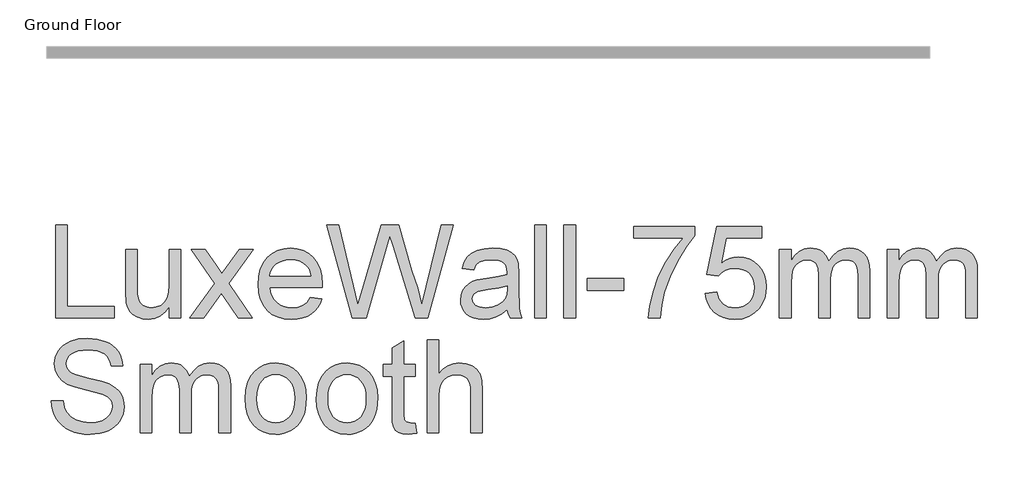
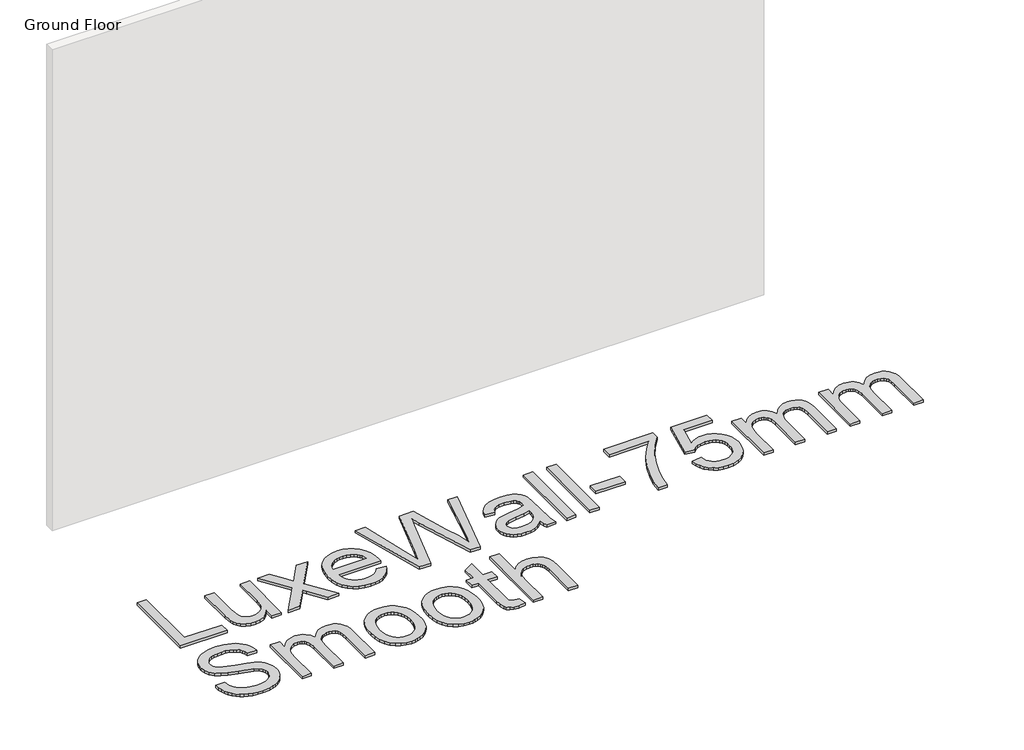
# One storey, part 2 of 3: 1 proxy.
"""IFC4 building model written with IfcOpenShell, lengths in millimetres."""

from ifc_helpers import new_model, si_unit, origin, origin_with_axes, place, context, project, spatial, polyline, outline, extrude, element, save

model = new_model("IFC4")

# Units and contexts
model_context = context("Model", 3, world=origin())
ifc_project = project(units=[si_unit("LENGTHUNIT", "METRE", prefix="MILLI")], contexts=[model_context])

# Site, building, storey
site = spatial("IfcSite", under=ifc_project)
building = spatial("IfcBuilding", under=site)
storey = spatial("IfcBuildingStorey", under=building, Name="Ground Floor", Elevation=0.0)

# Proxy
placement = place(None, origin())
element("IfcBuildingElementProxy", 1, Name="600mm Arial", ObjectType="600mm Arial", at=placement, inside=storey, context=model_context, shape_type="SweptSolid", body=[
    extrude(outline(polyline([(58.116488, -785.58737), (58.116488, -194.8181392), (131.9626419, -194.8181392), (131.9626419, -711.7412162), (427.3472572, -711.7412162), (427.3472572, -785.58737), (58.116488, -785.58737)])), origin_with_axes(), (0.0, 0.0, 1.0), 20.0),
    extrude(outline(polyline([(778.116488, -785.58737), (778.116488, -711.0200623), (751.397738, -747.681721), (720.2799496, -773.86862), (684.7631226, -789.5807594), (644.8472572, -794.8181392), (608.8797092, -791.1402546), (575.4001419, -780.1066008), (547.3111996, -763.5200623), (527.5155265, -743.1835239), (514.1922092, -718.4840046), (505.5203342, -688.8085239), (501.1934111, -620.1546777), (501.1934111, -351.7412162), (575.0395649, -351.7412162), (575.0395649, -585.3950623), (576.1573534, -632.1258315), (579.5107188, -660.6835239), (590.2739399, -685.7977065), (608.7174496, -704.8902546), (633.6152861, -716.9515527), (663.741488, -720.9719854), (695.5984592, -716.8614085), (725.4001419, -704.5296777), (749.9734592, -685.1126104), (766.1453342, -659.7460239), (775.1236996, -625.0044373), (778.116488, -577.46237), (778.116488, -351.7412162), (851.9626419, -351.7412162), (851.9626419, -785.58737), (778.116488, -785.58737)])), origin_with_axes(), (0.0, 0.0, 1.0), 20.0),
    extrude(outline(polyline([(907.3472572, -785.58737), (1065.1357188, -567.5104469), (916.5780265, -351.7412162), (1005.4241803, -351.7412162), (1077.1068726, -455.58737), (1110.5684111, -504.6258315), (1139.5587957, -464.5296777), (1221.1934111, -351.7412162), (1310.0395649, -351.7412162), (1153.9818726, -567.5104469), (1304.2703342, -785.58737), (1215.4241803, -785.58737), (1124.991488, -654.4816008), (1108.4049496, -630.5392931), (996.1934111, -785.58737), (907.3472572, -785.58737)])), origin_with_axes(), (0.0, 0.0, 1.0), 20.0),
    extrude(outline(polyline([(1672.6357188, -656.3566008), (1745.0395649, -665.58737), (1733.9383029, -694.586769), (1718.9518246, -720.1426585), (1700.0801298, -742.2550383), (1677.3232188, -760.9239085), (1650.9154664, -775.7526344), (1621.0912476, -786.3445815), (1587.8505625, -792.6997498), (1551.1934111, -794.8181392), (1505.3730986, -791.1627907), (1464.5467765, -780.196745), (1428.7144447, -761.9200022), (1397.8761034, -736.3325623), (1373.0774255, -704.1465647), (1355.3640842, -666.0741489), (1344.7360794, -622.1153147), (1341.1934111, -572.2700623), (1344.7721371, -520.7346056), (1355.5083149, -475.3109277), (1373.4019447, -435.9990287), (1398.4530265, -402.7989085), (1429.210238, -376.4227065), (1464.2222572, -357.5825623), (1503.4890842, -346.2784758), (1547.0107188, -342.5104469), (1589.1306106, -346.2694614), (1627.2210553, -357.5465046), (1661.2820529, -376.3415767), (1691.3136034, -402.6546777), (1715.828327, -435.7826825), (1733.3388438, -475.0224662), (1743.8451539, -520.3740287), (1747.3472572, -571.83737), (1746.9145649, -591.7412162), (1415.0395649, -591.7412162), (1419.3169087, -621.2093652), (1427.8220169, -647.0176585), (1440.5548895, -669.166096), (1457.5155265, -687.6546777), (1477.7664279, -702.2309998), (1500.3700938, -712.6426585), (1525.3265241, -718.8896537), (1552.6357188, -720.9719854), (1591.9386034, -717.1138123), (1625.0395649, -705.5392931), (1651.9386034, -685.5272739), (1672.6357188, -656.3566008)]), holes=[polyline([(1415.0395649, -517.8950623), (1673.5011034, -517.8950623), (1663.5131226, -478.8806392), (1654.9223774, -463.5380912), (1643.9337957, -450.9719854), (1623.7955746, -435.8277546), (1600.8809111, -425.0104469), (1575.1898053, -418.5200623), (1546.7222572, -416.3566008), (1520.7562116, -418.0828628), (1496.944613, -423.2616489), (1475.2874616, -431.892959), (1455.7847572, -443.9767931), (1439.4190722, -458.954257), (1427.1729784, -476.2664565), (1419.046476, -495.9133916), (1415.0395649, -517.8950623)])]), origin_with_axes(), (0.0, 0.0, 1.0), 20.0),
    extrude(outline(polyline([(1936.1453342, -785.58737), (1775.0395649, -194.8181392), (1851.1934111, -194.8181392), (1944.6549496, -583.08737), (1973.5011034, -702.9431392), (2004.366488, -596.9335239), (2121.4818726, -194.8181392), (2231.241488, -194.8181392), (2316.3376419, -486.3085239), (2352.7919688, -594.4816008), (2379.6549496, -702.9431392), (2407.6357188, -586.5489085), (2501.9626419, -194.8181392), (2578.116488, -194.8181392), (2416.866488, -785.58737), (2337.9722572, -785.58737), (2196.3376419, -329.8181392), (2176.5780265, -266.21237), (2154.366488, -342.7989085), (2025.2799496, -785.58737), (1936.1453342, -785.58737)])), origin_with_axes(), (0.0, 0.0, 1.0), 20.0),
    extrude(outline(polyline([(2919.6549496, -730.2027546), (2884.3724976, -760.4551585), (2848.0443726, -780.2508315), (2809.8412476, -791.1763123), (2768.9337957, -794.8181392), (2736.0536875, -792.6276344), (2707.2210553, -786.05612), (2682.4358991, -775.103596), (2661.6982188, -759.7700623), (2645.3235193, -741.0290767), (2633.6273053, -719.8541969), (2626.609577, -696.2454229), (2624.2703342, -670.2027546), (2627.803988, -639.5897739), (2638.4049496, -611.7892931), (2654.757113, -587.9912162), (2675.5443726, -569.3854469), (2699.9734592, -555.3229469), (2727.2511034, -545.1546777), (2791.1453342, -534.0489085), (2866.6501419, -522.3662162), (2919.2222572, -508.6642931), (2919.6549496, -492.2219854), (2914.5708149, -459.2652546), (2908.2156467, -447.0597258), (2899.3184111, -437.7027546), (2883.9398053, -428.3638123), (2865.2078342, -421.6931392), (2817.6837957, -416.3566008), (2773.6934111, -419.9082835), (2742.9722572, -430.5633315), (2722.022738, -450.2688604), (2707.3472572, -480.9719854), (2633.5011034, -471.7412162), (2646.319613, -431.3566008), (2665.4482188, -399.6258315), (2692.6717765, -375.3590046), (2729.7751419, -357.3662162), (2775.1537476, -346.2243892), (2827.2030265, -342.5104469), (2877.1249015, -345.7916969), (2916.6982188, -355.6354469), (2946.5359592, -370.4371296), (2967.2511034, -388.5921777), (2980.9890842, -411.0380912), (2989.8953342, -438.71237), (2993.5011034, -503.3277546), (2993.5011034, -595.2027546), (2997.2511034, -723.4960239), (3002.803988, -755.2087642), (3011.9626419, -785.58737), (2938.116488, -785.58737), (2926.2895649, -759.9142931), (2919.6549496, -730.2027546)]), holes=[polyline([(2919.6549496, -582.5104469), (2870.0395649, -594.80612), (2800.5203342, -605.1546777), (2736.9866803, -617.1258315), (2720.4542284, -625.3109277), (2708.2126419, -636.5969854), (2700.6405265, -650.11862), (2698.116488, -665.0104469), (2703.6152861, -686.9695815), (2720.1116803, -704.96237), (2747.2450938, -716.9695815), (2784.6549496, -720.9719854), (2824.3184111, -716.5549181), (2859.366488, -703.3037162), (2887.7799496, -683.7784758), (2907.5395649, -660.5392931), (2916.3015842, -636.5969854), (2919.2222572, -603.4239085), (2919.6549496, -582.5104469)])]), origin_with_axes(), (0.0, 0.0, 1.0), 20.0),
    extrude(outline(polyline([(3095.0395649, -785.58737), (3095.0395649, -194.8181392), (3168.8857188, -194.8181392), (3168.8857188, -785.58737), (3095.0395649, -785.58737)])), origin_with_axes(), (0.0, 0.0, 1.0), 20.0),
    extrude(outline(polyline([(3279.6549496, -785.58737), (3279.6549496, -194.8181392), (3353.5011034, -194.8181392), (3353.5011034, -785.58737), (3279.6549496, -785.58737)])), origin_with_axes(), (0.0, 0.0, 1.0), 20.0),
    extrude(outline(polyline([(3427.3472572, -610.2027546), (3427.3472572, -536.3566008), (3658.116488, -536.3566008), (3658.116488, -610.2027546), (3427.3472572, -610.2027546)])), origin_with_axes(), (0.0, 0.0, 1.0), 20.0),
    extrude(outline(polyline([(3722.7318726, -277.8950623), (3722.7318726, -204.0489085), (4110.4241803, -204.0489085), (4110.4241803, -263.7604469), (4055.1657669, -333.6943412), (4000.4482188, -422.6306392), (3952.1849976, -522.4563604), (3916.2895649, -625.0585239), (3898.6934111, -701.8253508), (3888.8857188, -785.58737), (3815.0395649, -785.58737), (3823.0263438, -709.4695815), (3844.3905265, -619.0008315), (3878.5551899, -523.1053989), (3924.9434111, -430.7075623), (3979.1020649, -347.1799181), (4036.5780265, -277.8950623), (3722.7318726, -277.8950623)])), origin_with_axes(), (0.0, 0.0, 1.0), 20.0),
    extrude(outline(polyline([(4175.0395649, -628.6642931), (4248.8857188, -619.4335239), (4254.4025457, -643.173007), (4262.4434111, -663.7664565), (4273.0083149, -681.2138724), (4286.0972572, -695.5152546), (4301.6831947, -706.6525743), (4319.7390842, -714.6078027), (4340.2649255, -719.3809397), (4363.2607188, -720.9719854), (4391.3857188, -718.7589445), (4416.1934111, -712.1198219), (4437.6837957, -701.0546176), (4455.8568726, -685.5633315), (4470.3069928, -666.4121897), (4480.6285072, -644.3674181), (4486.8214159, -619.4290166), (4488.8857188, -591.5969854), (4486.952125, -565.2928989), (4481.1513438, -541.9094854), (4471.483375, -521.446745), (4457.9482188, -503.9046777), (4440.5008029, -489.8331633), (4419.0960553, -479.7820815), (4393.733976, -473.7514325), (4364.4145649, -471.7412162), (4328.5912476, -474.9503508), (4299.5828342, -484.5777546), (4276.4157669, -499.3253508), (4258.116488, -517.8950623), (4184.2703342, -508.6642931), (4248.8857188, -204.0489085), (4535.0395649, -204.0489085), (4535.0395649, -277.8950623), (4308.5972572, -277.8950623), (4277.0107188, -440.58737), (4303.0714159, -421.9094854), (4329.7631226, -408.5681392), (4357.085839, -400.5633315), (4385.0395649, -397.8950623), (4421.0026058, -401.2033556), (4454.0359592, -411.1282354), (4484.139625, -427.6697017), (4511.3136034, -450.8277546), (4533.8090962, -479.1871296), (4549.8773053, -511.3325623), (4559.5182308, -547.2640527), (4562.7318726, -586.9816008), (4559.8382428, -625.2388123), (4551.1573534, -660.8277546), (4536.6892044, -693.7484277), (4516.4337957, -724.0008315), (4485.7486996, -754.9834037), (4449.9434111, -777.1138123), (4409.0179303, -790.3920575), (4362.9722572, -794.8181392), (4324.8637837, -791.9740888), (4290.4422092, -783.4419373), (4259.7075337, -769.2216849), (4232.6597572, -749.3133315), (4210.15525, -724.7084638), (4193.0503822, -696.3986681), (4181.3451539, -664.3839445), (4175.0395649, -628.6642931)])), origin_with_axes(), (0.0, 0.0, 1.0), 20.0),
    extrude(outline(polyline([(4645.8087957, -785.58737), (4645.8087957, -351.7412162), (4719.6549496, -351.7412162), (4719.6549496, -423.1354469), (4741.866488, -390.3409758), (4770.4241803, -364.64987), (4804.3544688, -348.0453027), (4842.6837957, -342.5104469), (4883.7535072, -348.1534758), (4901.2324736, -355.2072618), (4916.6741803, -365.0825623), (4941.2655265, -392.1799181), (4957.3472572, -428.3277546), (4984.2643246, -390.7826825), (5014.9674496, -363.9647739), (5049.4566322, -347.8740287), (5087.7318726, -342.5104469), (5117.2946731, -344.7415166), (5143.2426899, -351.4347258), (5165.5759231, -362.5900743), (5184.2943726, -378.2075623), (5199.0915481, -398.4674782), (5209.6609592, -423.5501104), (5216.0026058, -453.455459), (5218.116488, -488.1835239), (5218.116488, -785.58737), (5144.2703342, -785.58737), (5144.2703342, -519.9142931), (5142.5575938, -483.0813604), (5137.4193726, -458.2556392), (5127.7919688, -441.2544373), (5112.6116803, -427.8950623), (5093.0864399, -419.2412162), (5070.4241803, -416.3566008), (5049.4971972, -418.2045575), (5030.4181707, -423.7484277), (5013.187101, -432.9882114), (4997.803988, -445.9239085), (4985.1522452, -462.9341248), (4976.1152861, -484.3974662), (4970.6931106, -510.3139325), (4968.8857188, -540.6835239), (4968.8857188, -785.58737), (4895.0395649, -785.58737), (4895.0395649, -511.6931392), (4890.7667284, -469.9383315), (4877.9482188, -440.1546777), (4868.0368606, -429.743019), (4855.3941322, -422.30612), (4840.0200337, -417.8439806), (4821.9145649, -416.3566008), (4793.4650457, -420.3229469), (4767.2511034, -432.2219854), (4745.616488, -451.7652546), (4730.9049496, -478.6642931), (4722.4674496, -515.9840046), (4719.6549496, -566.7892931), (4719.6549496, -785.58737), (4645.8087957, -785.58737)])), origin_with_axes(), (0.0, 0.0, 1.0), 20.0),
    extrude(outline(polyline([(5328.8857188, -785.58737), (5328.8857188, -351.7412162), (5402.7318726, -351.7412162), (5402.7318726, -423.1354469), (5424.9434111, -390.3409758), (5453.5011034, -364.64987), (5487.4313919, -348.0453027), (5525.7607188, -342.5104469), (5566.8304303, -348.1534758), (5584.3093967, -355.2072618), (5599.7511034, -365.0825623), (5624.3424496, -392.1799181), (5640.4241803, -428.3277546), (5667.3412476, -390.7826825), (5698.0443726, -363.9647739), (5732.5335553, -347.8740287), (5770.8087957, -342.5104469), (5800.3715962, -344.7415166), (5826.319613, -351.4347258), (5848.6528462, -362.5900743), (5867.3712957, -378.2075623), (5882.1684712, -398.4674782), (5892.7378822, -423.5501104), (5899.0795289, -453.455459), (5901.1934111, -488.1835239), (5901.1934111, -785.58737), (5827.3472572, -785.58737), (5827.3472572, -519.9142931), (5825.6345169, -483.0813604), (5820.4962957, -458.2556392), (5810.8688919, -441.2544373), (5795.6886034, -427.8950623), (5776.163363, -419.2412162), (5753.5011034, -416.3566008), (5732.5741202, -418.2045575), (5713.4950938, -423.7484277), (5696.2640241, -432.9882114), (5680.8809111, -445.9239085), (5668.2291683, -462.9341248), (5659.1922092, -484.3974662), (5653.7700337, -510.3139325), (5651.9626419, -540.6835239), (5651.9626419, -785.58737), (5578.116488, -785.58737), (5578.116488, -511.6931392), (5573.8436515, -469.9383315), (5561.0251419, -440.1546777), (5551.1137837, -429.743019), (5538.4710553, -422.30612), (5523.0969568, -417.8439806), (5504.991488, -416.3566008), (5476.5419688, -420.3229469), (5450.3280265, -432.2219854), (5428.6934111, -451.7652546), (5413.9818726, -478.6642931), (5405.5443726, -515.9840046), (5402.7318726, -566.7892931), (5402.7318726, -785.58737), (5328.8857188, -785.58737)])), origin_with_axes(), (0.0, 0.0, 1.0), 20.0),
    extrude(outline(polyline([(30.4241803, -1311.7412162), (104.2703342, -1311.7412162), (112.7438919, -1352.7207835), (128.0684111, -1385.6594854), (151.9746611, -1411.8013123), (186.1934111, -1432.3902546), (228.0203342, -1445.7496296), (274.7511034, -1450.2027546), (315.8929303, -1446.8313604), (351.9145649, -1436.7171777), (381.1032669, -1420.7075623), (401.7462957, -1399.64987), (414.0239399, -1375.4731873), (418.116488, -1350.1066008), (415.0515842, -1325.3890527), (405.8568726, -1304.02487), (387.178988, -1285.7977065), (355.6645649, -1270.4912162), (248.1405265, -1242.2941008), (177.5575938, -1223.634245), (132.3953342, -1205.8758315), (95.6345169, -1181.0320815), (69.5828342, -1150.9239085), (54.0599976, -1116.2003508), (48.8857188, -1077.5104469), (50.4857789, -1055.5197618), (55.2859592, -1034.259245), (63.2862597, -1013.7288965), (74.4866803, -993.9287162), (88.7610193, -975.665495), (105.9830746, -959.7460239), (126.1528462, -946.1703027), (149.2703342, -934.9383315), (201.2294688, -919.8481873), (258.741488, -914.8181392), (321.0491803, -920.0825623), (375.5684111, -935.8758315), (399.4205746, -947.6396537), (420.3520649, -961.8734277), (438.3628822, -978.5771537), (453.4530265, -997.7508315), (465.5053101, -1018.8355671), (474.4025457, -1041.2724662), (480.1447332, -1065.0615287), (482.7318726, -1090.2027546), (408.8857188, -1090.2027546), (403.9458149, -1066.6390527), (395.3280265, -1046.1402546), (383.0323534, -1028.7063604), (367.0587957, -1014.33737), (347.1098774, -1003.1053989), (322.8881226, -995.0825623), (294.3935313, -990.2688604), (261.6261034, -988.6642931), (227.8130024, -990.2508315), (198.9217765, -995.0104469), (174.9524255, -1002.9431392), (155.9049496, -1014.0489085), (141.3917284, -1027.399269), (131.0251419, -1042.0657354), (124.8051899, -1058.0483075), (122.7318726, -1075.3469854), (128.6092765, -1103.7243892), (146.241488, -1126.5489085), (162.4313919, -1136.6991489), (187.9241803, -1146.9575623), (266.8184111, -1167.7989085), (348.2366803, -1187.5945815), (397.491488, -1204.8662162), (439.5888438, -1231.6570815), (455.8643847, -1247.4052787), (468.9578342, -1264.7219854), (479.0224375, -1283.5170575), (486.2114399, -1303.7003508), (491.9626419, -1348.2316008), (490.3084952, -1371.3310599), (485.3460553, -1393.7544373), (477.0753222, -1415.501733), (465.4962957, -1436.5729469), (450.8118005, -1456.1522739), (433.2246611, -1473.4239085), (412.7348774, -1488.3878508), (389.3424496, -1501.0441008), (363.7279664, -1511.1087041), (336.5720169, -1518.2977065), (277.6357188, -1524.0489085), (239.8607789, -1522.4984277), (205.2859592, -1517.8469854), (173.9112597, -1510.0945815), (145.7366803, -1499.2412162), (120.5909472, -1485.2688604), (98.3027861, -1468.1594854), (78.8721972, -1447.9130912), (62.2991803, -1424.5296777), (48.9488197, -1398.7664565), (39.1861996, -1371.3806392), (33.0113197, -1342.3722258), (30.4241803, -1311.7412162)])), origin_with_axes(), (0.0, 0.0, 1.0), 20.0),
    extrude(outline(polyline([(593.5011034, -1514.8181392), (593.5011034, -1080.9719854), (667.3472572, -1080.9719854), (667.3472572, -1152.3662162), (689.5587957, -1119.571745), (718.116488, -1093.8806392), (752.0467765, -1077.2760719), (790.3761034, -1071.7412162), (831.4458149, -1077.384245), (848.9247813, -1084.4380311), (864.366488, -1094.3133315), (888.9578342, -1121.4106873), (905.0395649, -1157.5585239), (931.9566322, -1120.0134517), (962.6597572, -1093.1955431), (997.1489399, -1077.1047979), (1035.4241803, -1071.7412162), (1064.9869808, -1073.9722859), (1090.9349976, -1080.665495), (1113.2682308, -1091.8208436), (1131.9866803, -1107.4383315), (1146.7838558, -1127.6982474), (1157.3532669, -1152.7808796), (1163.6949135, -1182.6862282), (1165.8087957, -1217.4142931), (1165.8087957, -1514.8181392), (1091.9626419, -1514.8181392), (1091.9626419, -1249.1450623), (1090.2499015, -1212.3121296), (1085.1116803, -1187.4864085), (1075.4842765, -1170.4852065), (1060.303988, -1157.1258315), (1040.7787476, -1148.4719854), (1018.116488, -1145.58737), (997.1895048, -1147.4353267), (978.1104784, -1152.9791969), (960.8794087, -1162.2189806), (945.4962957, -1175.1546777), (932.8445529, -1192.164894), (923.8075938, -1213.6282354), (918.3854183, -1239.5447017), (916.5780265, -1269.9142931), (916.5780265, -1514.8181392), (842.7318726, -1514.8181392), (842.7318726, -1240.9239085), (838.4590361, -1199.1691008), (825.6405265, -1169.3854469), (815.7291683, -1158.9737883), (803.0864399, -1151.5368892), (787.7123414, -1147.0747498), (769.6068726, -1145.58737), (741.1573534, -1149.5537162), (714.9434111, -1161.4527546), (693.3087957, -1180.9960239), (678.5972572, -1207.8950623), (670.1597572, -1245.2147739), (667.3472572, -1296.0200623), (667.3472572, -1514.8181392), (593.5011034, -1514.8181392)])), origin_with_axes(), (0.0, 0.0, 1.0), 20.0),
    extrude(outline(polyline([(1258.116488, -1297.8950623), (1262.1098774, -1241.7081633), (1274.0900457, -1193.2916969), (1294.0569928, -1152.6456633), (1322.0107188, -1119.7700623), (1350.1537476, -1098.7574421), (1381.2174496, -1083.7484277), (1415.2018246, -1074.743019), (1452.1068726, -1071.7412162), (1492.8475577, -1075.3965647), (1529.6849976, -1086.3626104), (1562.6191923, -1104.6393532), (1591.6501419, -1130.2267931), (1615.3445529, -1162.2595455), (1632.2691322, -1199.8722258), (1642.4238798, -1243.064834), (1645.8087957, -1291.83737), (1644.3124015, -1331.3656152), (1639.8232188, -1366.4407354), (1632.3412476, -1397.0627306), (1621.866488, -1423.2316008), (1608.5296491, -1445.8352666), (1592.4614399, -1465.7616489), (1573.6618606, -1483.0107474), (1552.1309111, -1497.5825623), (1528.7069327, -1509.1615888), (1504.2282669, -1517.4323219), (1478.6949135, -1522.3947618), (1452.1068726, -1524.0489085), (1410.7712356, -1520.4070815), (1373.5912476, -1509.4816008), (1340.5669087, -1491.2724662), (1311.6982188, -1465.7796777), (1288.2562116, -1433.4359277), (1271.5119207, -1394.6739085), (1261.4653462, -1349.49362), (1258.116488, -1297.8950623)]), holes=[polyline([(1331.9626419, -1297.7508315), (1334.0990601, -1333.5696416), (1340.5083149, -1364.5837642), (1351.1904063, -1390.7931993), (1366.1453342, -1412.1979469), (1384.3364399, -1428.8250503), (1404.7270649, -1440.7015527), (1427.3172092, -1447.8274541), (1452.1068726, -1450.2027546), (1476.7703342, -1447.8139325), (1499.2703342, -1440.6474662), (1519.6068726, -1428.7033556), (1537.7799496, -1411.9816008), (1552.7348774, -1390.3650142), (1563.4169688, -1363.7364085), (1569.8262236, -1332.0957835), (1571.9626419, -1295.4431392), (1569.812702, -1260.7601465), (1563.3628822, -1230.5573219), (1552.6131827, -1204.8346657), (1537.5636034, -1183.5921777), (1519.3229183, -1166.9650743), (1498.9999015, -1155.0885719), (1476.5945529, -1147.9626705), (1452.1068726, -1145.58737), (1427.3172092, -1147.9536561), (1404.7270649, -1155.0525142), (1384.3364399, -1166.8839445), (1366.1453342, -1183.4479469), (1351.1904063, -1204.7895936), (1340.5083149, -1230.9539565), (1334.0990601, -1261.9410359), (1331.9626419, -1297.7508315)])]), origin_with_axes(), (0.0, 0.0, 1.0), 20.0),
    extrude(outline(polyline([(1710.4241803, -1297.8950623), (1714.4175697, -1241.7081633), (1726.397738, -1193.2916969), (1746.3646851, -1152.6456633), (1774.3184111, -1119.7700623), (1802.4614399, -1098.7574421), (1833.5251419, -1083.7484277), (1867.5095169, -1074.743019), (1904.4145649, -1071.7412162), (1945.15525, -1075.3965647), (1981.9926899, -1086.3626104), (2014.9268847, -1104.6393532), (2043.9578342, -1130.2267931), (2067.6522452, -1162.2595455), (2084.5768246, -1199.8722258), (2094.7315722, -1243.064834), (2098.116488, -1291.83737), (2096.6200938, -1331.3656152), (2092.1309111, -1366.4407354), (2084.6489399, -1397.0627306), (2074.1741803, -1423.2316008), (2060.8373414, -1445.8352666), (2044.7691322, -1465.7616489), (2025.9695529, -1483.0107474), (2004.4386034, -1497.5825623), (1981.014625, -1509.1615888), (1956.5359592, -1517.4323219), (1931.0026058, -1522.3947618), (1904.4145649, -1524.0489085), (1863.0789279, -1520.4070815), (1825.8989399, -1509.4816008), (1792.874601, -1491.2724662), (1764.0059111, -1465.7796777), (1740.5639039, -1433.4359277), (1723.819613, -1394.6739085), (1713.7730385, -1349.49362), (1710.4241803, -1297.8950623)]), holes=[polyline([(1784.2703342, -1297.7508315), (1786.4067524, -1333.5696416), (1792.8160072, -1364.5837642), (1803.4980986, -1390.7931993), (1818.4530265, -1412.1979469), (1836.6441322, -1428.8250503), (1857.0347572, -1440.7015527), (1879.6249015, -1447.8274541), (1904.4145649, -1450.2027546), (1929.0780265, -1447.8139325), (1951.5780265, -1440.6474662), (1971.9145649, -1428.7033556), (1990.0876419, -1411.9816008), (2005.0425697, -1390.3650142), (2015.7246611, -1363.7364085), (2022.1339159, -1332.0957835), (2024.2703342, -1295.4431392), (2022.1203943, -1260.7601465), (2015.6705746, -1230.5573219), (2004.920875, -1204.8346657), (1989.8712957, -1183.5921777), (1971.6306106, -1166.9650743), (1951.3075938, -1155.0885719), (1928.9022452, -1147.9626705), (1904.4145649, -1145.58737), (1879.6249015, -1147.9536561), (1857.0347572, -1155.0525142), (1836.6441322, -1166.8839445), (1818.4530265, -1183.4479469), (1803.4980986, -1204.7895936), (1792.8160072, -1230.9539565), (1786.4067524, -1261.9410359), (1784.2703342, -1297.7508315)])]), origin_with_axes(), (0.0, 0.0, 1.0), 20.0),
    extrude(outline(polyline([(2338.116488, -1453.2316008), (2347.3472572, -1516.9816008), (2292.1068726, -1524.0489085), (2256.6621611, -1520.9840046), (2230.2318726, -1511.7892931), (2211.553988, -1497.61862), (2199.366488, -1479.6258315), (2192.6597572, -1448.7243892), (2190.4241803, -1395.8277546), (2190.4241803, -1154.8181392), (2135.0395649, -1154.8181392), (2135.0395649, -1080.9719854), (2190.4241803, -1080.9719854), (2190.4241803, -975.5392931), (2264.2703342, -932.1258315), (2264.2703342, -1080.9719854), (2338.116488, -1080.9719854), (2338.116488, -1154.8181392), (2264.2703342, -1154.8181392), (2264.2703342, -1393.6642931), (2268.1645649, -1431.7412162), (2280.7847572, -1445.2267931), (2291.4398053, -1448.9587642), (2305.9530265, -1450.2027546), (2338.116488, -1453.2316008)])), origin_with_axes(), (0.0, 0.0, 1.0), 20.0),
    extrude(outline(polyline([(2411.9626419, -1514.8181392), (2411.9626419, -924.0489085), (2485.8087957, -924.0489085), (2485.8087957, -1141.2604469), (2512.9331947, -1110.8457835), (2543.3929303, -1089.1210239), (2577.1880024, -1076.0861681), (2614.3184111, -1071.7412162), (2658.9217765, -1076.4828027), (2697.2511034, -1090.7075623), (2727.4313919, -1113.2977065), (2747.5876419, -1143.1354469), (2758.9458149, -1184.1330431), (2762.7318726, -1240.2027546), (2762.7318726, -1514.8181392), (2688.8857188, -1514.8181392), (2688.8857188, -1247.8469854), (2687.4163678, -1222.9130912), (2683.0083149, -1201.6210239), (2675.6615601, -1183.9707835), (2665.3761034, -1169.96237), (2652.3953342, -1159.2983075), (2636.9626419, -1151.68112), (2619.0780265, -1147.1108075), (2598.741488, -1145.58737), (2567.5335553, -1149.6979469), (2538.2366803, -1162.0296777), (2513.9698534, -1181.3926585), (2497.8520649, -1206.5969854), (2488.819613, -1240.0945815), (2485.8087957, -1284.33737), (2485.8087957, -1514.8181392), (2411.9626419, -1514.8181392)])), origin_with_axes(), (0.0, 0.0, 1.0), 20.0),
])

save(model, "model.ifc")
